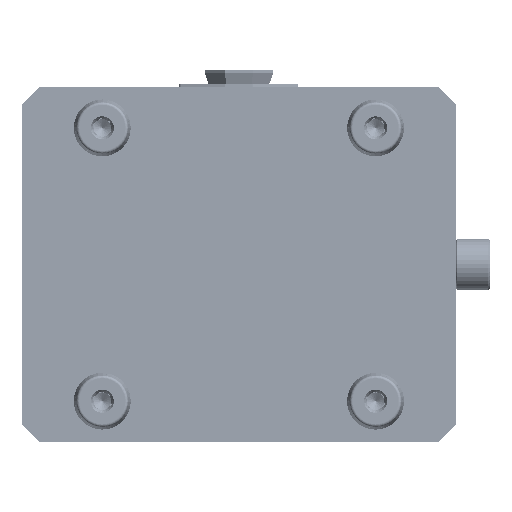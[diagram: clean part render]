
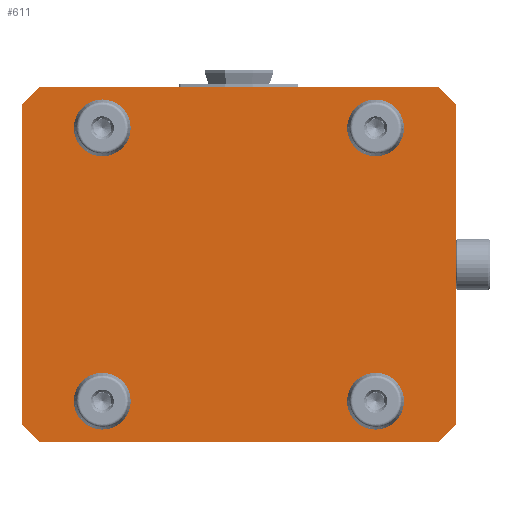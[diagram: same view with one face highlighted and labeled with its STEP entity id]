
A CAD part, front view. The second image highlights one B-rep face of the part: STEP entity #611.
In plain terms, the highlighted planar face has unit normal (0, -1, 0).
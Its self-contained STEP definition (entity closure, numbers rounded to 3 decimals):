
#93 = EDGE_CURVE ( 'NONE', #5187, #10195, #4031, .T. ) ;
#249 = EDGE_LOOP ( 'NONE', ( #1499, #38637, #39954, #17356, #47737, #22651, #2790, #49017 ) ) ;
#255 = EDGE_CURVE ( 'NONE', #3685, #5187, #45535, .T. ) ;
#611 = ADVANCED_FACE ( 'NONE', ( #63103, #66550, #11215, #46767, #27981 ), #6115, .T. ) ;
#1243 = CARTESIAN_POINT ( 'NONE',  ( 48., -25., 48. ) ) ;
#1499 = ORIENTED_EDGE ( 'NONE', *, *, #67889, .F. ) ;
#1808 = VECTOR ( 'NONE', #17814, 1000. ) ;
#2188 = VERTEX_POINT ( 'NONE', #22678 ) ;
#2790 = ORIENTED_EDGE ( 'NONE', *, *, #255, .F. ) ;
#3006 = CARTESIAN_POINT ( 'NONE',  ( 48., -25., -48. ) ) ;
#3685 = VERTEX_POINT ( 'NONE', #43904 ) ;
#4031 = LINE ( 'NONE', #5478, #33143 ) ;
#4292 = CIRCLE ( 'NONE', #39207, 8.01 ) ;
#5187 = VERTEX_POINT ( 'NONE', #31863 ) ;
#5388 = EDGE_CURVE ( 'NONE', #10086, #3685, #39497, .T. ) ;
#5478 = CARTESIAN_POINT ( 'NONE',  ( 69.85, -25., 62.5 ) ) ;
#5762 = CARTESIAN_POINT ( 'NONE',  ( 0., -25., 0. ) ) ;
#6050 = ORIENTED_EDGE ( 'NONE', *, *, #61903, .F. ) ;
#6115 = PLANE ( 'NONE',  #63468 ) ;
#6560 = CARTESIAN_POINT ( 'NONE',  ( -48., -25., 48. ) ) ;
#6839 = EDGE_CURVE ( 'NONE', #66330, #24289, #27820, .T. ) ;
#7554 = VECTOR ( 'NONE', #23930, 1000. ) ;
#7775 = VECTOR ( 'NONE', #21507, 1000. ) ;
#8620 = CARTESIAN_POINT ( 'NONE',  ( 69.85, -25., -62.5 ) ) ;
#8736 = DIRECTION ( 'NONE',  ( 0., -1., 0. ) ) ;
#8893 = EDGE_LOOP ( 'NONE', ( #60648, #6050 ) ) ;
#9199 = AXIS2_PLACEMENT_3D ( 'NONE', #49393, #37711, #44671 ) ;
#9625 = AXIS2_PLACEMENT_3D ( 'NONE', #6560, #17817, #18865 ) ;
#9866 = ORIENTED_EDGE ( 'NONE', *, *, #25286, .F. ) ;
#10086 = VERTEX_POINT ( 'NONE', #53930 ) ;
#10195 = VERTEX_POINT ( 'NONE', #19674 ) ;
#10367 = DIRECTION ( 'NONE',  ( 0., -1., 0. ) ) ;
#11116 = DIRECTION ( 'NONE',  ( 0., 0., 1. ) ) ;
#11215 = FACE_BOUND ( 'NONE', #8893, .T. ) ;
#13401 = CARTESIAN_POINT ( 'NONE',  ( 76.2, -25., -56.15 ) ) ;
#14131 = EDGE_CURVE ( 'NONE', #47775, #35922, #36474, .T. ) ;
#14491 = ORIENTED_EDGE ( 'NONE', *, *, #30097, .F. ) ;
#16122 = DIRECTION ( 'NONE',  ( -1., 0., 0. ) ) ;
#16173 = CIRCLE ( 'NONE', #9199, 8.01 ) ;
#16263 = VECTOR ( 'NONE', #11116, 1000. ) ;
#16775 = LINE ( 'NONE', #44469, #7775 ) ;
#17356 = ORIENTED_EDGE ( 'NONE', *, *, #57627, .F. ) ;
#17814 = DIRECTION ( 'NONE',  ( 0.707, 0., 0.707 ) ) ;
#17817 = DIRECTION ( 'NONE',  ( 0., -1., 0. ) ) ;
#17896 = ORIENTED_EDGE ( 'NONE', *, *, #50450, .F. ) ;
#18865 = DIRECTION ( 'NONE',  ( 0., 0., -1. ) ) ;
#19593 = AXIS2_PLACEMENT_3D ( 'NONE', #30315, #56933, #51480 ) ;
#19674 = CARTESIAN_POINT ( 'NONE',  ( 69.85, -25., 62.5 ) ) ;
#19716 = DIRECTION ( 'NONE',  ( 0., 0., -1. ) ) ;
#20364 = DIRECTION ( 'NONE',  ( 0., 0., -1. ) ) ;
#21507 = DIRECTION ( 'NONE',  ( 0.707, 0., -0.707 ) ) ;
#22136 = DIRECTION ( 'NONE',  ( 0., -1., 0. ) ) ;
#22651 = ORIENTED_EDGE ( 'NONE', *, *, #93, .F. ) ;
#22678 = CARTESIAN_POINT ( 'NONE',  ( -48., -25., -39.99 ) ) ;
#22900 = VERTEX_POINT ( 'NONE', #13401 ) ;
#23732 = CARTESIAN_POINT ( 'NONE',  ( 48., -25., 48. ) ) ;
#23930 = DIRECTION ( 'NONE',  ( 0., 0., -1. ) ) ;
#24289 = VERTEX_POINT ( 'NONE', #55973 ) ;
#25184 = DIRECTION ( 'NONE',  ( 0., -1., 0. ) ) ;
#25286 = EDGE_CURVE ( 'NONE', #63151, #43675, #27039, .T. ) ;
#26098 = CARTESIAN_POINT ( 'NONE',  ( 76.2, -25., 56.15 ) ) ;
#27039 = CIRCLE ( 'NONE', #9625, 8.01 ) ;
#27228 = CARTESIAN_POINT ( 'NONE',  ( 48., -25., 39.99 ) ) ;
#27820 = CIRCLE ( 'NONE', #19593, 8.01 ) ;
#27981 = FACE_OUTER_BOUND ( 'NONE', #249, .T. ) ;
#28876 = DIRECTION ( 'NONE',  ( 0., 0., -1. ) ) ;
#29666 = CIRCLE ( 'NONE', #38980, 8.01 ) ;
#30097 = EDGE_CURVE ( 'NONE', #2188, #61411, #4292, .T. ) ;
#30315 = CARTESIAN_POINT ( 'NONE',  ( 48., -25., -48. ) ) ;
#30824 = DIRECTION ( 'NONE',  ( -0.707, 0., -0.707 ) ) ;
#31863 = CARTESIAN_POINT ( 'NONE',  ( -69.85, -25., 62.5 ) ) ;
#32199 = VERTEX_POINT ( 'NONE', #50076 ) ;
#32472 = CARTESIAN_POINT ( 'NONE',  ( 48., -25., -56.01 ) ) ;
#32605 = CARTESIAN_POINT ( 'NONE',  ( 48., -25., 56.01 ) ) ;
#33143 = VECTOR ( 'NONE', #49906, 1000. ) ;
#34337 = ORIENTED_EDGE ( 'NONE', *, *, #58446, .F. ) ;
#35074 = DIRECTION ( 'NONE',  ( 0., 0., -1. ) ) ;
#35922 = VERTEX_POINT ( 'NONE', #32605 ) ;
#36474 = CIRCLE ( 'NONE', #42342, 8.01 ) ;
#37107 = CARTESIAN_POINT ( 'NONE',  ( -48., -25., -48. ) ) ;
#37552 = CARTESIAN_POINT ( 'NONE',  ( -48., -25., 39.99 ) ) ;
#37644 = EDGE_CURVE ( 'NONE', #61192, #32199, #44170, .T. ) ;
#37711 = DIRECTION ( 'NONE',  ( 0., -1., 0. ) ) ;
#38637 = ORIENTED_EDGE ( 'NONE', *, *, #37644, .F. ) ;
#38762 = CARTESIAN_POINT ( 'NONE',  ( -76.2, -25., 56.15 ) ) ;
#38980 = AXIS2_PLACEMENT_3D ( 'NONE', #1243, #39463, #56916 ) ;
#39198 = VECTOR ( 'NONE', #30824, 1000. ) ;
#39207 = AXIS2_PLACEMENT_3D ( 'NONE', #37107, #8736, #20364 ) ;
#39463 = DIRECTION ( 'NONE',  ( 0., -1., 0. ) ) ;
#39497 = LINE ( 'NONE', #38762, #16263 ) ;
#39954 = ORIENTED_EDGE ( 'NONE', *, *, #69649, .F. ) ;
#40297 = EDGE_LOOP ( 'NONE', ( #17896, #14491 ) ) ;
#40680 = LINE ( 'NONE', #41025, #7554 ) ;
#41025 = CARTESIAN_POINT ( 'NONE',  ( 76.2, -25., -56.15 ) ) ;
#41394 = EDGE_CURVE ( 'NONE', #10195, #70883, #16775, .T. ) ;
#41750 = LINE ( 'NONE', #8620, #39198 ) ;
#41839 = CARTESIAN_POINT ( 'NONE',  ( 69.85, -25., -62.5 ) ) ;
#42342 = AXIS2_PLACEMENT_3D ( 'NONE', #23732, #47037, #28876 ) ;
#43675 = VERTEX_POINT ( 'NONE', #37552 ) ;
#43904 = CARTESIAN_POINT ( 'NONE',  ( -76.2, -25., 56.15 ) ) ;
#44170 = LINE ( 'NONE', #71100, #54251 ) ;
#44469 = CARTESIAN_POINT ( 'NONE',  ( 76.2, -25., 56.15 ) ) ;
#44671 = DIRECTION ( 'NONE',  ( 0., 0., -1. ) ) ;
#45535 = LINE ( 'NONE', #67713, #1808 ) ;
#46767 = FACE_BOUND ( 'NONE', #56681, .T. ) ;
#47037 = DIRECTION ( 'NONE',  ( 0., -1., 0. ) ) ;
#47737 = ORIENTED_EDGE ( 'NONE', *, *, #41394, .F. ) ;
#47775 = VERTEX_POINT ( 'NONE', #27228 ) ;
#48952 = DIRECTION ( 'NONE',  ( 0., 0., -1. ) ) ;
#49017 = ORIENTED_EDGE ( 'NONE', *, *, #5388, .F. ) ;
#49393 = CARTESIAN_POINT ( 'NONE',  ( -48., -25., -48. ) ) ;
#49847 = CARTESIAN_POINT ( 'NONE',  ( -48., -25., -56.01 ) ) ;
#49906 = DIRECTION ( 'NONE',  ( 1., 0., 0. ) ) ;
#50076 = CARTESIAN_POINT ( 'NONE',  ( -69.85, -25., -62.5 ) ) ;
#50450 = EDGE_CURVE ( 'NONE', #61411, #2188, #16173, .T. ) ;
#51480 = DIRECTION ( 'NONE',  ( 0., 0., -1. ) ) ;
#51716 = CARTESIAN_POINT ( 'NONE',  ( -48., -25., 56.01 ) ) ;
#53930 = CARTESIAN_POINT ( 'NONE',  ( -76.2, -25., -56.15 ) ) ;
#54251 = VECTOR ( 'NONE', #16122, 1000. ) ;
#55973 = CARTESIAN_POINT ( 'NONE',  ( 48., -25., -39.99 ) ) ;
#56482 = AXIS2_PLACEMENT_3D ( 'NONE', #3006, #25184, #19716 ) ;
#56536 = EDGE_LOOP ( 'NONE', ( #62319, #34337 ) ) ;
#56681 = EDGE_LOOP ( 'NONE', ( #67809, #9866 ) ) ;
#56916 = DIRECTION ( 'NONE',  ( 0., 0., -1. ) ) ;
#56933 = DIRECTION ( 'NONE',  ( 0., -1., 0. ) ) ;
#57321 = CARTESIAN_POINT ( 'NONE',  ( -76.2, -25., -56.15 ) ) ;
#57627 = EDGE_CURVE ( 'NONE', #70883, #22900, #40680, .T. ) ;
#57658 = CIRCLE ( 'NONE', #56482, 8.01 ) ;
#58446 = EDGE_CURVE ( 'NONE', #35922, #47775, #29666, .T. ) ;
#58681 = AXIS2_PLACEMENT_3D ( 'NONE', #60217, #10367, #48952 ) ;
#59757 = VECTOR ( 'NONE', #67566, 1000. ) ;
#60217 = CARTESIAN_POINT ( 'NONE',  ( -48., -25., 48. ) ) ;
#60648 = ORIENTED_EDGE ( 'NONE', *, *, #6839, .F. ) ;
#61192 = VERTEX_POINT ( 'NONE', #41839 ) ;
#61411 = VERTEX_POINT ( 'NONE', #49847 ) ;
#61903 = EDGE_CURVE ( 'NONE', #24289, #66330, #57658, .T. ) ;
#62319 = ORIENTED_EDGE ( 'NONE', *, *, #14131, .F. ) ;
#63103 = FACE_BOUND ( 'NONE', #40297, .T. ) ;
#63151 = VERTEX_POINT ( 'NONE', #51716 ) ;
#63468 = AXIS2_PLACEMENT_3D ( 'NONE', #5762, #22136, #35074 ) ;
#65747 = CIRCLE ( 'NONE', #58681, 8.01 ) ;
#65774 = EDGE_CURVE ( 'NONE', #43675, #63151, #65747, .T. ) ;
#66330 = VERTEX_POINT ( 'NONE', #32472 ) ;
#66550 = FACE_BOUND ( 'NONE', #56536, .T. ) ;
#67566 = DIRECTION ( 'NONE',  ( -0.707, 0., 0.707 ) ) ;
#67713 = CARTESIAN_POINT ( 'NONE',  ( -69.85, -25., 62.5 ) ) ;
#67809 = ORIENTED_EDGE ( 'NONE', *, *, #65774, .F. ) ;
#67889 = EDGE_CURVE ( 'NONE', #32199, #10086, #67913, .T. ) ;
#67913 = LINE ( 'NONE', #57321, #59757 ) ;
#69649 = EDGE_CURVE ( 'NONE', #22900, #61192, #41750, .T. ) ;
#70883 = VERTEX_POINT ( 'NONE', #26098 ) ;
#71100 = CARTESIAN_POINT ( 'NONE',  ( -69.85, -25., -62.5 ) ) ;
